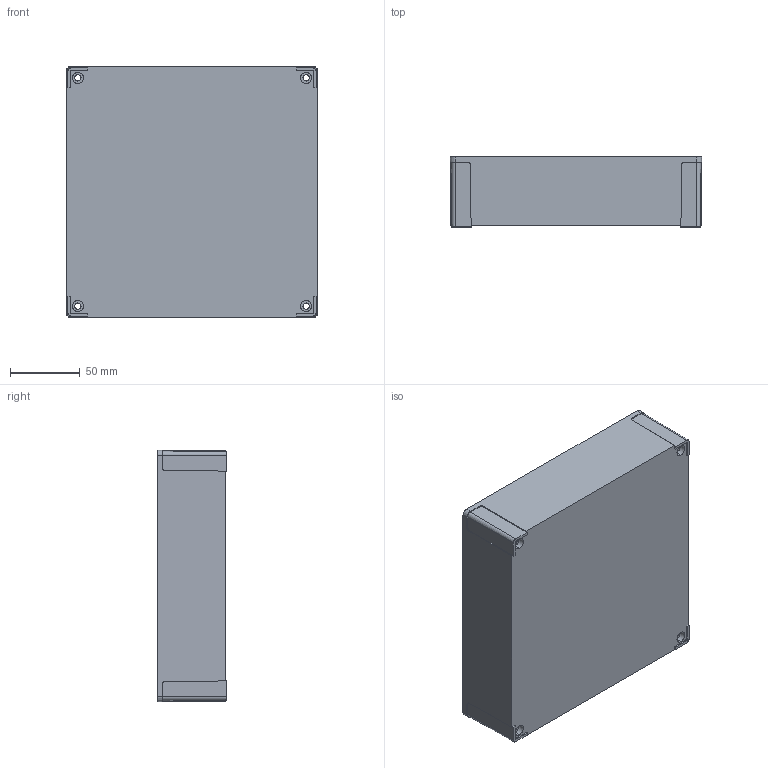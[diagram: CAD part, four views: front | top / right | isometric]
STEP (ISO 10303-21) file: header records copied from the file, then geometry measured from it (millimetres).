
FILE_DESCRIPTION (( 'STEP AP203' ), '1' );
FILE_NAME ('FIBOX_MNX175HB.STEP', '2005-06-30T06:57:14', ( ' ' ), ( ' ' ), 'SwSTEP 2.0', 'SolidWorks 2005143', '' );
FILE_SCHEMA (( 'CONFIG_CONTROL_DESIGN' ));
Length unit declared in the file: millimetre
Products named in the file (1): FIBOX_MNX175HB
Bounding box: 180.1 x 50 x 180.1 mm (x, y, z)
Volume: 252017.7 mm3; surface area: 139579.1 mm2
Topology: 1 solids, 1 shells, 326 faces, 789 edges, 526 vertices
Faces by surface type: plane 174, cylinder 132, cone 20
Entity records: 9766 total; most frequent: CARTESIAN_POINT 1786, DIRECTION 1707, ORIENTED_EDGE 1578, EDGE_CURVE 789, AXIS2_PLACEMENT_3D 623, VERTEX_POINT 526, VECTOR 461, LINE 461
